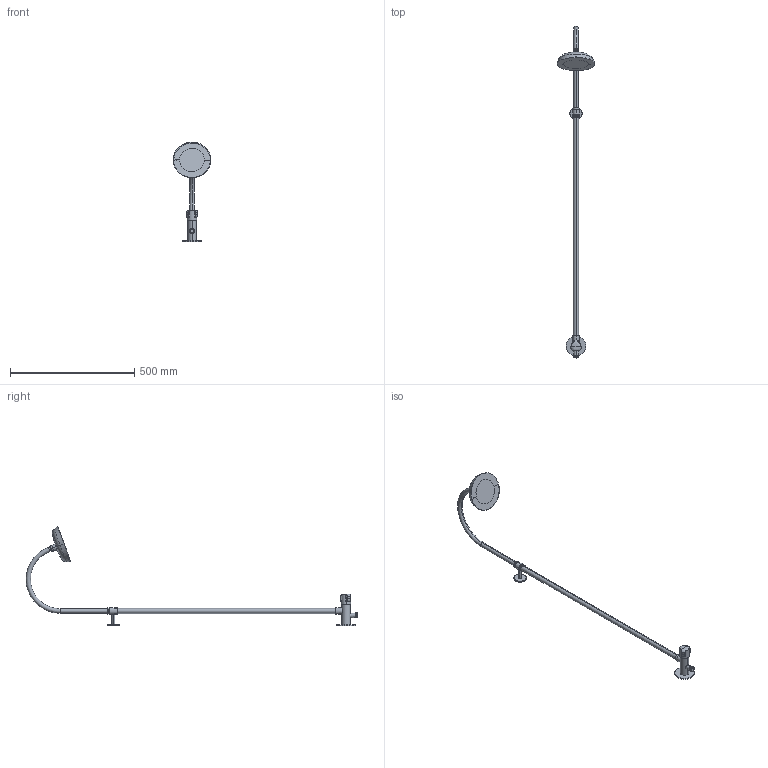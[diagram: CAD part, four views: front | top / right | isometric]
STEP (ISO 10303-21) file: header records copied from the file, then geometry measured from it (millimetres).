
FILE_DESCRIPTION((''),'2;1');
FILE_NAME('89785--25_SW0001','2026-09-09T13:58:36',('clra1'),(''),'CREO PARAMETRIC BY PTC INC, 2022244','CREO PARAMETRIC BY PTC INC, 2022244','');
FILE_SCHEMA(('CONFIG_CONTROL_DESIGN'));
Length unit declared in the file: millimetre
Products named in the file (1): 89785--25_SW0001
Bounding box: 152.73 x 1338.41 x 402.1 mm (x, y, z)
Surface area: 213824.7 mm2 (no closed solid volume)
Topology: 0 solids, 22 shells, 178 faces, 446 edges, 282 vertices
Faces by surface type: bspline 63, cylinder 44, cone 30, plane 22, torus 14, revolution 5
Entity records: 12620 total; most frequent: CARTESIAN_POINT 8852, ORIENTED_EDGE 798, DIRECTION 682, EDGE_CURVE 444, AXIS2_PLACEMENT_3D 291, VERTEX_POINT 282, CIRCLE 181, EDGE_LOOP 178
